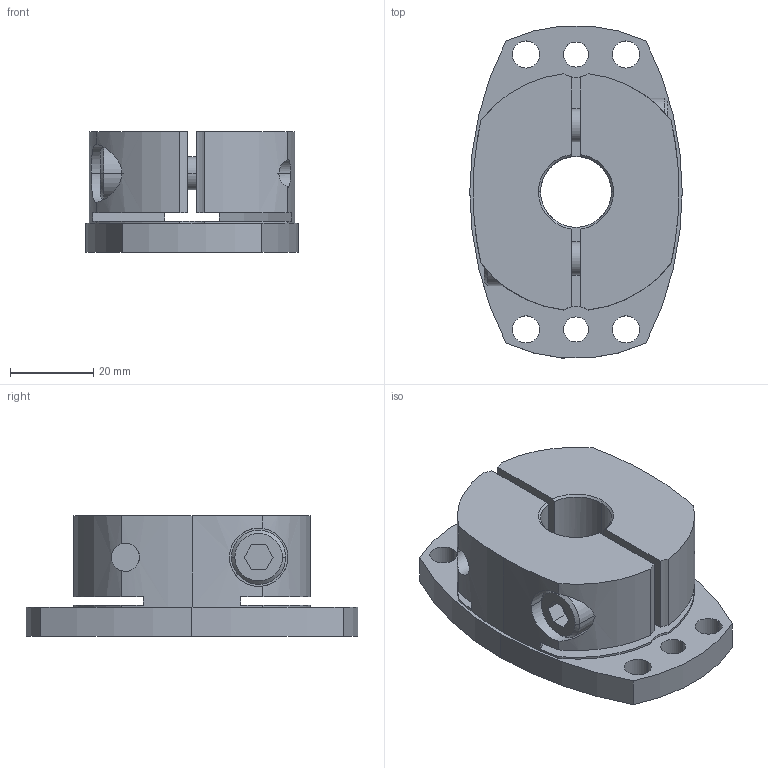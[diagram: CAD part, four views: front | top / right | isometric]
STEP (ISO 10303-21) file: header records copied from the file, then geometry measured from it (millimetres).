
FILE_DESCRIPTION((''),'2;1');
FILE_NAME('SHDB-80B-17.stp','2026-01-28T08:23:10',(''),(''),'AutoCAD STEP 2000i','AutoCAD 2000i',', , ');
FILE_SCHEMA(('CONFIG_CONTROL_DESIGN'));
Length unit declared in the file: millimetre
Products named in the file (2): SHDB-80B-12; 忣兜1
Assembly tree (1 placements, depth 2):
  SHDB-80B-12
    忣兜1
Bounding box: 51 x 79.7 x 29 mm (x, y, z)
Volume: 62559.5 mm3; surface area: 19962.6 mm2
Topology: 1 solids, 1 shells, 102 faces, 280 edges, 184 vertices
Faces by surface type: cylinder 58, plane 34, cone 10
Entity records: 3707 total; most frequent: CARTESIAN_POINT 880, DIRECTION 602, ORIENTED_EDGE 560, EDGE_CURVE 280, AXIS2_PLACEMENT_3D 238, VERTEX_POINT 184, CIRCLE 134, VECTOR 126
